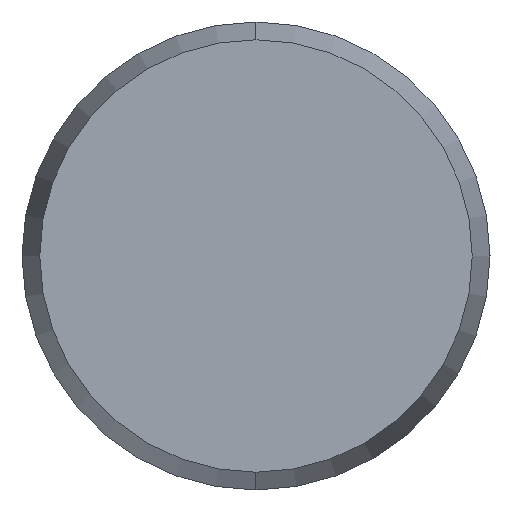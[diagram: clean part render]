
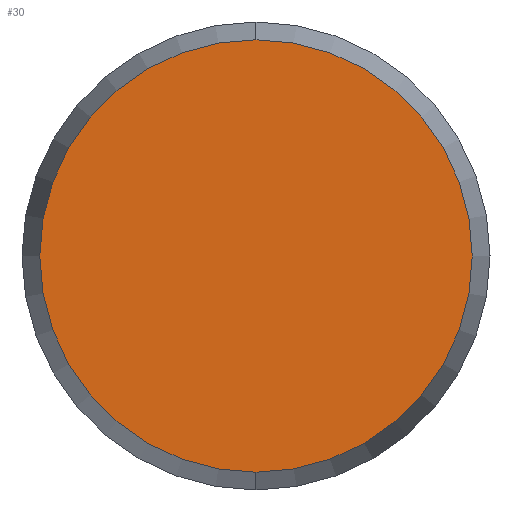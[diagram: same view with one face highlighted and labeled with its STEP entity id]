
A CAD part, left-side view. The second image highlights one B-rep face of the part: STEP entity #30.
In plain terms, the highlighted planar face has unit normal (-1, 0, 0).
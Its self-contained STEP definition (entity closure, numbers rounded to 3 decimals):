
#9 = EDGE_CURVE ( 'NONE', #10, #11, #156, .T. ) ;
#10 = VERTEX_POINT ( 'NONE', #151 ) ;
#11 = VERTEX_POINT ( 'NONE', #150 ) ;
#30 = ADVANCED_FACE ( 'NONE', ( #67 ), #66, .F. ) ;
#31 = ORIENTED_EDGE ( 'NONE', *, *, #9, .F. ) ;
#32 = ORIENTED_EDGE ( 'NONE', *, *, #42, .F. ) ;
#42 = EDGE_CURVE ( 'NONE', #11, #10, #126, .T. ) ;
#45 = EDGE_LOOP ( 'NONE', ( #31, #32 ) ) ;
#61 = DIRECTION ( 'NONE',  ( 0., 0., -1. ) ) ;
#62 = DIRECTION ( 'NONE',  ( 1., 0., 0. ) ) ;
#63 = CARTESIAN_POINT ( 'NONE',  ( -35., 0., 0. ) ) ;
#65 = AXIS2_PLACEMENT_3D ( 'NONE', #63, #62, #61 ) ;
#66 = PLANE ( 'NONE',  #65 ) ;
#67 = FACE_OUTER_BOUND ( 'NONE', #45, .T. ) ;
#122 = DIRECTION ( 'NONE',  ( 0., 0., -1. ) ) ;
#123 = DIRECTION ( 'NONE',  ( 1., 0., 0. ) ) ;
#124 = CARTESIAN_POINT ( 'NONE',  ( -35., 0., 0. ) ) ;
#125 = AXIS2_PLACEMENT_3D ( 'NONE', #124, #123, #122 ) ;
#126 = CIRCLE ( 'NONE', #125, 5.544 ) ;
#150 = CARTESIAN_POINT ( 'NONE',  ( -35., 0., -5.544 ) ) ;
#151 = CARTESIAN_POINT ( 'NONE',  ( -35., 0., 5.544 ) ) ;
#152 = DIRECTION ( 'NONE',  ( 0., 0., -1. ) ) ;
#153 = DIRECTION ( 'NONE',  ( 1., 0., 0. ) ) ;
#154 = CARTESIAN_POINT ( 'NONE',  ( -35., 0., 0. ) ) ;
#155 = AXIS2_PLACEMENT_3D ( 'NONE', #154, #153, #152 ) ;
#156 = CIRCLE ( 'NONE', #155, 5.544 ) ;
